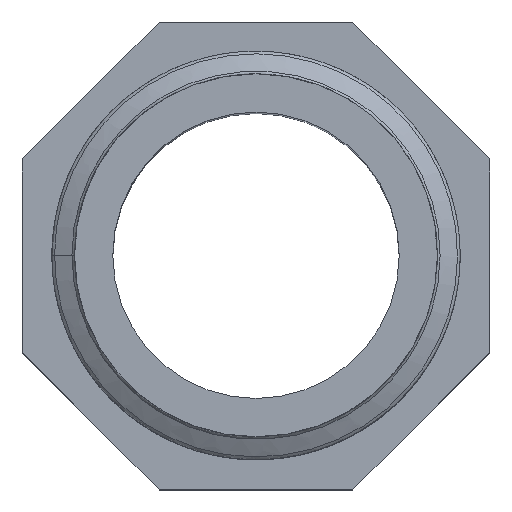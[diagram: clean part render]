
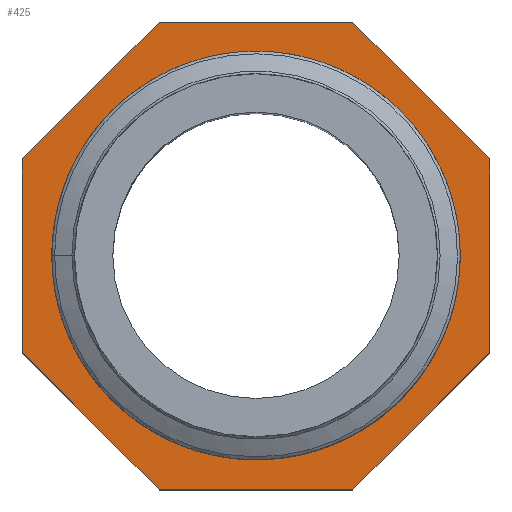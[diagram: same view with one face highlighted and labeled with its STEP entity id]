
A CAD part, top view. The second image highlights one B-rep face of the part: STEP entity #425.
In plain terms, the highlighted planar face has unit normal (0, 0, 1).
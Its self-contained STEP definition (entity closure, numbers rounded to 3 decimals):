
#39=FACE_BOUND('',#95,.T.);
#48=B_SPLINE_CURVE_WITH_KNOTS('',3,(#660,#661,#662,#663,#664,#665,#666,
#667,#668,#669,#670,#671),.UNSPECIFIED.,.F.,.F.,(4,2,2,2,2,4),(-1.027,
-0.891,-0.731,-0.499,-0.26,
0.),.UNSPECIFIED.);
#49=B_SPLINE_CURVE_WITH_KNOTS('',3,(#673,#674,#675,#676,#677,#678,#679,
#680,#681,#682,#683,#684,#685),.UNSPECIFIED.,.F.,.F.,(4,3,3,3,4),(-1.602,
-1.128,-0.64,-0.139,0.),
 .UNSPECIFIED.);
#50=B_SPLINE_CURVE_WITH_KNOTS('',3,(#687,#688,#689,#690,#691,#692,#693,
#694),.UNSPECIFIED.,.F.,.F.,(4,2,2,4),(-0.445,-0.324,
-0.211,0.),.UNSPECIFIED.);
#51=B_SPLINE_CURVE_WITH_KNOTS('',3,(#696,#697,#698,#699,#700,#701),
 .UNSPECIFIED.,.F.,.F.,(4,2,4),(-0.822,-0.364,0.),
 .UNSPECIFIED.);
#52=B_SPLINE_CURVE_WITH_KNOTS('',3,(#702,#703,#704,#705,#706,#707,#708,
#709,#710,#711,#712,#713,#714),.UNSPECIFIED.,.F.,.F.,(4,3,3,3,4),(-1.599,
-1.098,-0.609,-0.133,0.),
 .UNSPECIFIED.);
#66=FACE_OUTER_BOUND('',#94,.T.);
#94=EDGE_LOOP('',(#299,#300,#301,#302,#303,#304,#305,#306));
#95=EDGE_LOOP('',(#307,#308,#309,#310,#311));
#132=LINE('',#644,#162);
#133=LINE('',#646,#163);
#134=LINE('',#648,#164);
#135=LINE('',#650,#165);
#136=LINE('',#652,#166);
#137=LINE('',#654,#167);
#138=LINE('',#656,#168);
#139=LINE('',#657,#169);
#162=VECTOR('',#494,9.941);
#163=VECTOR('',#495,9.941);
#164=VECTOR('',#496,9.941);
#165=VECTOR('',#497,9.941);
#166=VECTOR('',#498,9.941);
#167=VECTOR('',#499,9.941);
#168=VECTOR('',#500,9.941);
#169=VECTOR('',#501,9.941);
#197=VERTEX_POINT('',#642);
#198=VERTEX_POINT('',#643);
#199=VERTEX_POINT('',#645);
#200=VERTEX_POINT('',#647);
#201=VERTEX_POINT('',#649);
#202=VERTEX_POINT('',#651);
#203=VERTEX_POINT('',#653);
#204=VERTEX_POINT('',#655);
#205=VERTEX_POINT('',#658);
#206=VERTEX_POINT('',#659);
#207=VERTEX_POINT('',#672);
#208=VERTEX_POINT('',#686);
#209=VERTEX_POINT('',#695);
#237=EDGE_CURVE('',#197,#198,#132,.T.);
#238=EDGE_CURVE('',#198,#199,#133,.T.);
#239=EDGE_CURVE('',#199,#200,#134,.T.);
#240=EDGE_CURVE('',#200,#201,#135,.T.);
#241=EDGE_CURVE('',#201,#202,#136,.T.);
#242=EDGE_CURVE('',#202,#203,#137,.T.);
#243=EDGE_CURVE('',#203,#204,#138,.T.);
#244=EDGE_CURVE('',#204,#197,#139,.T.);
#245=EDGE_CURVE('',#205,#206,#48,.T.);
#246=EDGE_CURVE('',#207,#205,#49,.T.);
#247=EDGE_CURVE('',#208,#207,#50,.T.);
#248=EDGE_CURVE('',#209,#208,#51,.T.);
#249=EDGE_CURVE('',#206,#209,#52,.T.);
#299=ORIENTED_EDGE('',*,*,#237,.T.);
#300=ORIENTED_EDGE('',*,*,#238,.T.);
#301=ORIENTED_EDGE('',*,*,#239,.T.);
#302=ORIENTED_EDGE('',*,*,#240,.T.);
#303=ORIENTED_EDGE('',*,*,#241,.T.);
#304=ORIENTED_EDGE('',*,*,#242,.T.);
#305=ORIENTED_EDGE('',*,*,#243,.T.);
#306=ORIENTED_EDGE('',*,*,#244,.T.);
#307=ORIENTED_EDGE('',*,*,#245,.F.);
#308=ORIENTED_EDGE('',*,*,#246,.F.);
#309=ORIENTED_EDGE('',*,*,#247,.F.);
#310=ORIENTED_EDGE('',*,*,#248,.F.);
#311=ORIENTED_EDGE('',*,*,#249,.F.);
#411=PLANE('',#454);
#425=ADVANCED_FACE('',(#66,#39),#411,.T.);
#454=AXIS2_PLACEMENT_3D('',#641,#492,#493);
#492=DIRECTION('center_axis',(0.,0.,1.));
#493=DIRECTION('ref_axis',(1.,0.,0.));
#494=DIRECTION('',(-1.,0.,0.));
#495=DIRECTION('',(-0.707,-0.707,0.));
#496=DIRECTION('',(0.,-1.,0.));
#497=DIRECTION('',(0.707,-0.707,0.));
#498=DIRECTION('',(1.,0.,0.));
#499=DIRECTION('',(0.707,0.707,0.));
#500=DIRECTION('',(0.,1.,0.));
#501=DIRECTION('',(-0.707,0.707,0.));
#641=CARTESIAN_POINT('Origin',(0.,0.,
6.));
#642=CARTESIAN_POINT('',(4.971,12.,6.));
#643=CARTESIAN_POINT('',(-4.971,12.,6.));
#644=CARTESIAN_POINT('',(-4.971,12.,6.));
#645=CARTESIAN_POINT('',(-12.,4.971,6.));
#646=CARTESIAN_POINT('',(-12.,4.971,6.));
#647=CARTESIAN_POINT('',(-12.,-4.971,6.));
#648=CARTESIAN_POINT('',(-12.,-4.971,6.));
#649=CARTESIAN_POINT('',(-4.971,-12.,6.));
#650=CARTESIAN_POINT('',(-4.971,-12.,6.));
#651=CARTESIAN_POINT('',(4.971,-12.,6.));
#652=CARTESIAN_POINT('',(4.971,-12.,6.));
#653=CARTESIAN_POINT('',(12.,-4.971,6.));
#654=CARTESIAN_POINT('',(12.,-4.971,6.));
#655=CARTESIAN_POINT('',(12.,4.971,6.));
#656=CARTESIAN_POINT('',(12.,4.971,6.));
#657=CARTESIAN_POINT('',(4.971,12.,6.));
#658=CARTESIAN_POINT('',(-8.004,-6.551,6.));
#659=CARTESIAN_POINT('',(6.226,-8.26,6.));
#660=CARTESIAN_POINT('Ctrl Pts',(-8.004,-6.551,6.));
#661=CARTESIAN_POINT('Ctrl Pts',(-7.698,-6.969,6.));
#662=CARTESIAN_POINT('Ctrl Pts',(-7.272,-7.464,6.));
#663=CARTESIAN_POINT('Ctrl Pts',(-6.036,-8.559,6.));
#664=CARTESIAN_POINT('Ctrl Pts',(-5.285,-9.058,6.));
#665=CARTESIAN_POINT('Ctrl Pts',(-3.318,-10.018,6.));
#666=CARTESIAN_POINT('Ctrl Pts',(-2.055,-10.356,6.));
#667=CARTESIAN_POINT('Ctrl Pts',(0.565,-10.544,6.));
#668=CARTESIAN_POINT('Ctrl Pts',(1.901,-10.377,6.));
#669=CARTESIAN_POINT('Ctrl Pts',(4.535,-9.494,6.));
#670=CARTESIAN_POINT('Ctrl Pts',(5.563,-8.817,6.));
#671=CARTESIAN_POINT('Ctrl Pts',(6.225,-8.26,6.));
#672=CARTESIAN_POINT('',(-5.687,7.546,6.));
#673=CARTESIAN_POINT('Ctrl Pts',(-5.688,7.546,6.));
#674=CARTESIAN_POINT('Ctrl Pts',(-7.,6.672,6.));
#675=CARTESIAN_POINT('Ctrl Pts',(-8.087,5.466,6.));
#676=CARTESIAN_POINT('Ctrl Pts',(-8.827,4.077,6.));
#677=CARTESIAN_POINT('Ctrl Pts',(-9.59,2.647,6.));
#678=CARTESIAN_POINT('Ctrl Pts',(-9.985,1.024,6.));
#679=CARTESIAN_POINT('Ctrl Pts',(-9.979,-0.595,6.));
#680=CARTESIAN_POINT('Ctrl Pts',(-9.972,-2.257,6.));
#681=CARTESIAN_POINT('Ctrl Pts',(-9.54,-3.921,6.));
#682=CARTESIAN_POINT('Ctrl Pts',(-8.746,-5.383,6.));
#683=CARTESIAN_POINT('Ctrl Pts',(-8.526,-5.788,6.));
#684=CARTESIAN_POINT('Ctrl Pts',(-8.278,-6.178,6.));
#685=CARTESIAN_POINT('Ctrl Pts',(-8.004,-6.551,6.));
#686=CARTESIAN_POINT('',(1.111,9.249,6.));
#687=CARTESIAN_POINT('Ctrl Pts',(1.111,9.249,6.));
#688=CARTESIAN_POINT('Ctrl Pts',(0.393,9.335,6.));
#689=CARTESIAN_POINT('Ctrl Pts',(-0.332,9.341,6.));
#690=CARTESIAN_POINT('Ctrl Pts',(-1.718,9.196,6.));
#691=CARTESIAN_POINT('Ctrl Pts',(-2.375,9.057,6.));
#692=CARTESIAN_POINT('Ctrl Pts',(-4.208,8.471,6.));
#693=CARTESIAN_POINT('Ctrl Pts',(-5.103,7.935,6.));
#694=CARTESIAN_POINT('Ctrl Pts',(-5.688,7.546,6.));
#695=CARTESIAN_POINT('',(7.312,5.985,6.));
#696=CARTESIAN_POINT('Ctrl Pts',(7.312,5.985,6.));
#697=CARTESIAN_POINT('Ctrl Pts',(6.789,6.554,6.));
#698=CARTESIAN_POINT('Ctrl Pts',(5.895,7.436,6.));
#699=CARTESIAN_POINT('Ctrl Pts',(3.481,8.734,6.));
#700=CARTESIAN_POINT('Ctrl Pts',(2.316,9.104,6.));
#701=CARTESIAN_POINT('Ctrl Pts',(1.111,9.249,6.));
#702=CARTESIAN_POINT('Ctrl Pts',(6.225,-8.26,6.));
#703=CARTESIAN_POINT('Ctrl Pts',(7.505,-7.183,6.));
#704=CARTESIAN_POINT('Ctrl Pts',(8.517,-5.791,6.));
#705=CARTESIAN_POINT('Ctrl Pts',(9.135,-4.241,6.));
#706=CARTESIAN_POINT('Ctrl Pts',(9.739,-2.729,6.));
#707=CARTESIAN_POINT('Ctrl Pts',(9.967,-1.068,6.));
#708=CARTESIAN_POINT('Ctrl Pts',(9.785,0.545,6.));
#709=CARTESIAN_POINT('Ctrl Pts',(9.608,2.116,6.));
#710=CARTESIAN_POINT('Ctrl Pts',(9.04,3.647,6.));
#711=CARTESIAN_POINT('Ctrl Pts',(8.143,4.947,6.));
#712=CARTESIAN_POINT('Ctrl Pts',(7.891,5.311,6.));
#713=CARTESIAN_POINT('Ctrl Pts',(7.614,5.658,6.));
#714=CARTESIAN_POINT('Ctrl Pts',(7.312,5.985,6.));
